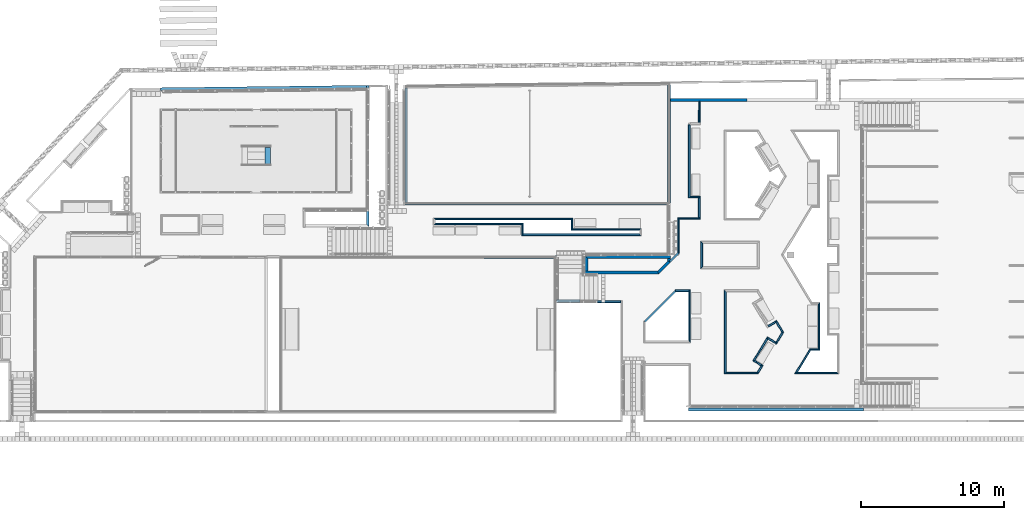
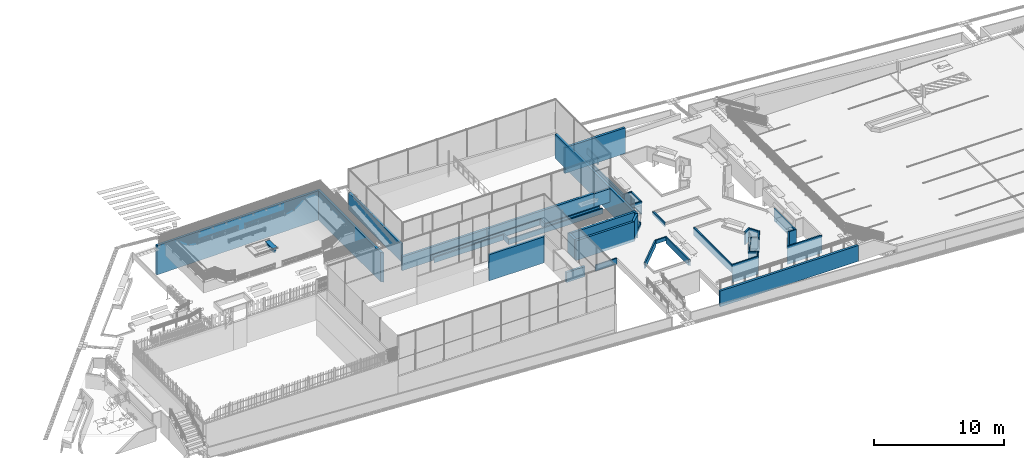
# One storey, part 18 of 237: 49 walls.
"""IFC2X3 building model written with IfcOpenShell, lengths in millimetres."""

from ifc_helpers import new_model, entity, si_unit, converted_unit, derived_unit, money_unit, direction, frame, origin_with_axes, place, context, subcontext, project, spatial, polyline, outline, extrude, material, layer, layer_set, layer_usage, type_object, element, save


model = new_model("IFC2X3")

# Units and contexts
model_context = context("Model", 3, precision=0.01, world=origin_with_axes(), true_north=direction((0.0, 1.0)))
body_context = subcontext(model_context, "Body", "Model", "MODEL_VIEW")
ifc_project = project(units=[si_unit("LENGTHUNIT", "METRE", prefix="MILLI"), si_unit("AREAUNIT", "SQUARE_METRE"), si_unit("VOLUMEUNIT", "CUBIC_METRE"), converted_unit("PLANEANGLEUNIT", "DEGREE", entity("IfcPlaneAngleMeasure", 0.0174532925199), si_unit("PLANEANGLEUNIT", "RADIAN"), dimensions=[0, 0, 0, 0, 0, 0, 0]), money_unit("USD"), converted_unit("TIMEUNIT", "Year", entity("IfcTimeMeasure", 31556926.0), si_unit("TIMEUNIT", "SECOND"), dimensions=[0, 0, 1, 0, 0, 0, 0]), si_unit("MASSUNIT", "GRAM", prefix="KILO"), si_unit("THERMODYNAMICTEMPERATUREUNIT", "DEGREE_CELSIUS"), si_unit("LUMINOUSINTENSITYUNIT", "LUMEN"), si_unit("ENERGYUNIT", "JOULE", prefix="MEGA"), derived_unit("THERMALCONDUCTANCEUNIT", [(si_unit("POWERUNIT", "WATT"), 1), (si_unit("LENGTHUNIT", "METRE"), -1), (si_unit("THERMODYNAMICTEMPERATUREUNIT", "KELVIN"), -1)]), derived_unit("SPECIFICHEATCAPACITYUNIT", [(si_unit("ENERGYUNIT", "JOULE"), 1), (si_unit("MASSUNIT", "GRAM", prefix="KILO"), -1), (si_unit("THERMODYNAMICTEMPERATUREUNIT", "KELVIN"), -1)]), derived_unit("MASSDENSITYUNIT", [(si_unit("MASSUNIT", "GRAM", prefix="KILO"), 1), (si_unit("VOLUMEUNIT", "CUBIC_METRE"), -1)])], contexts=[model_context])

# Site, building, storey
site_placement = place(None, origin_with_axes())
site = spatial("IfcSite", under=ifc_project, at=site_placement, Name="Local", CompositionType="ELEMENT")
building_placement = place(site_placement, origin_with_axes())
building = spatial("IfcBuilding", under=site, at=building_placement, Name="Construção", CompositionType="ELEMENT")
storey_placement = place(building_placement, origin_with_axes())
storey = spatial("IfcBuildingStorey", under=building, at=storey_placement, Name="Pavimento Térreo", CompositionType="ELEMENT", Elevation=0.0)

# Walls
ifc_material_1 = material(Name="Bloco de Concreto - Estrutural")
ifc_layer_1 = layer(ifc_material_1, 120.0, ventilated="UNKNOWN")
ifc_layer_set_1 = layer_set([ifc_layer_1], Name="Bloco de Concreto - Estrutural 120")
ifc_layer_usage_1 = layer_usage(ifc_layer_set_1, "AXIS2", "NEGATIVE", 0.0)
wall_type_1 = type_object("IfcWallType", Name="Bloco de Concreto - Estrutural 120", PredefinedType="NOTDEFINED")
wall_1_placement = place(storey_placement, frame((88136.5293784, 27817.2902729, -6038.27348767), z_axis=(0.0, 0.0, 1.0), x_axis=(1.0, 0.0, 0.0)))
element("IfcWallStandardCase", 1, at=wall_1_placement, inside=storey, type_object=wall_type_1, material=ifc_layer_usage_1, Name="Parede-085", context=body_context, shape_type="SweptSolid", body=[
    extrude(outline(polyline([(-0.00405153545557, -120.0), (700.267973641, -120.0), (700.267973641, 0.0), (-0.00405153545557, 0.0), (-0.00405153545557, -120.0)])), origin_with_axes(), (0.0, 0.0, 1.0), 1197.27348767),
])
ifc_layer_usage_2 = layer_usage(ifc_layer_set_1, "AXIS2", "NEGATIVE", 0.0)
wall_2_placement = place(storey_placement, frame((79917.0535554, 26172.3083774, -3852.41502407), z_axis=(0.0, 0.0, 1.0), x_axis=(-1.0, 0.0, 0.0)))
element("IfcWallStandardCase", 2, at=wall_2_placement, inside=storey, type_object=wall_type_1, material=ifc_layer_usage_2, Name="Parede-088", context=body_context, shape_type="SweptSolid", body=[
    extrude(outline(polyline([(0.0, -120.0), (9754.609759, -120.0), (9634.60975914, 0.0), (120.0, 0.0), (0.0, -120.0)])), origin_with_axes(), (0.0, 0.0, 1.0), 495.357755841),
])
ifc_layer_usage_3 = layer_usage(ifc_layer_set_1, "AXIS2", "NEGATIVE", 0.0)
wall_3_placement = place(storey_placement, frame((84717.0535529, 25057.2074195, -3852.41502407), z_axis=(0.0, 0.0, 1.0), x_axis=(-1.0, 5.19654094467e-09, 0.0)))
element("IfcWallStandardCase", 3, at=wall_3_placement, inside=storey, type_object=wall_type_1, material=ifc_layer_usage_3, Name="Parede-088", context=body_context, shape_type="SweptSolid", body=[
    extrude(outline(polyline([(120.00000001, -120.0), (8250.00000572, -120.0), (8370.00000591, 0.0), (0.0, 0.0), (120.00000001, -120.0)])), origin_with_axes(), (0.0, 0.0, 1.0), 495.357755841),
])
ifc_layer_usage_4 = layer_usage(ifc_layer_set_1, "AXIS2", "NEGATIVE", 0.0)
wall_4_placement = place(storey_placement, frame((87262.890169, 23868.0287044, -5181.0), z_axis=(0.0, 0.0, 1.0), x_axis=(7.26927904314e-06, 0.999999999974, 0.0)))
element("IfcWallStandardCase", 4, at=wall_4_placement, inside=storey, type_object=wall_type_1, material=ifc_layer_usage_4, Name="Parede-089", context=body_context, shape_type="SweptSolid", body=[
    extrude(outline(polyline([(-49.7051164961, -120.0), (2444.27594809, -120.0), (2444.27594809, 0.0), (0.0, 0.0), (-49.7051164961, -120.0)])), origin_with_axes(), (0.0, 0.0, 1.0), 340.0),
])
ifc_layer_usage_5 = layer_usage(ifc_layer_set_1, "AXIS2", "NEGATIVE", 0.0)
wall_5_placement = place(storey_placement, frame((79917.0535554, 26172.3083774, -3852.41502407), z_axis=(0.0, 0.0, 1.0), x_axis=(0.0, -1.0, 0.0)))
element("IfcWallStandardCase", 5, at=wall_5_placement, inside=storey, type_object=wall_type_1, material=ifc_layer_usage_5, Name="Parede-087", context=body_context, shape_type="SweptSolid", body=[
    extrude(outline(polyline([(0.0, -120.0), (750.0, -120.0), (630.0, 0.0), (-120.0, 0.0), (0.0, -120.0)])), origin_with_axes(), (0.0, 0.0, 1.0), 495.357755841),
])
ifc_layer_usage_6 = layer_usage(ifc_layer_set_1, "AXIS2", "NEGATIVE", 0.0)
wall_6_placement = place(storey_placement, frame((94178.8106637, 19128.4389739, -6187.39424695), z_axis=(0.0, 0.0, 1.0), x_axis=(0.518296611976, -0.855200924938, 0.0)))
element("IfcWallStandardCase", 6, at=wall_6_placement, inside=storey, type_object=wall_type_1, material=ifc_layer_usage_6, Name="Parede-081", context=body_context, shape_type="SweptSolid", body=[
    extrude(outline(polyline([(120.0, -120.0), (907.273706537, -120.0), (980.0, 0.0), (0.0, 0.0), (120.0, -120.0)])), origin_with_axes(), (0.0, 0.0, 1.0), 1345.0864139),
])
ifc_layer_usage_7 = layer_usage(ifc_layer_set_1, "AXIS2", "NEGATIVE", 0.0)
wall_7_placement = place(storey_placement, frame((87083.8709299, 21256.562138, -5180.04539951), z_axis=(0.0, 0.0, 1.0), x_axis=(1.0, 0.0, 0.0)))
element("IfcWallStandardCase", 7, at=wall_7_placement, inside=storey, type_object=wall_type_1, material=ifc_layer_usage_7, Name="Parede-081", context=body_context, shape_type="SweptSolid", body=[
    extrude(outline(polyline([(49.7056274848, -120.0), (936.173533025, -120.0), (1056.17353303, 0.0), (0.0, 0.0), (49.7056274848, -120.0)])), origin_with_axes(), (0.0, 0.0, 1.0), 340.0),
])
ifc_layer_usage_8 = layer_usage(ifc_layer_set_1, "AXIS2", "NEGATIVE", 0.0)
wall_8_placement = place(storey_placement, frame((88140.0444629, 21256.562138, -5402.07510216), z_axis=(0.0, 0.0, 1.0), x_axis=(0.0, -1.0, 0.0)))
element("IfcWallStandardCase", 8, at=wall_8_placement, inside=storey, type_object=wall_type_1, material=ifc_layer_usage_8, Name="Parede-084", context=body_context, shape_type="SweptSolid", body=[
    extrude(outline(polyline([(120.0, -120.0), (3564.74751986, -120.0), (3684.74751986, 0.0), (0.0, 0.0), (120.0, -120.0)])), origin_with_axes(), (0.0, 0.0, 1.0), 560.929574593),
])
ifc_layer_usage_9 = layer_usage(ifc_layer_set_1, "AXIS2", "NEGATIVE", 0.0)
wall_9_placement = place(storey_placement, frame((88840.4302332, 34453.1545409, -5410.24389814), z_axis=(0.0, 0.0, 1.0), x_axis=(-0.000580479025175, -0.999999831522, 0.0)))
element("IfcWallStandardCase", 9, at=wall_9_placement, inside=storey, type_object=wall_type_1, material=ifc_layer_usage_9, Name="Parede-082", context=body_context, shape_type="SweptSolid", body=[
    extrude(outline(polyline([(0.0, -120.0), (1505.36531755, -120.0), (1625.29568027, 0.0), (0.0, 0.0), (0.0, -120.0)])), origin_with_axes(), (0.0, 0.0, 1.0), 570.243898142),
])
ifc_layer_usage_10 = layer_usage(ifc_layer_set_1, "AXIS2", "NEGATIVE", 0.0)
wall_10_placement = place(storey_placement, frame((83386.4920647, 20372.3992382, -5225.91595125), z_axis=(0.0, 0.0, 1.0), x_axis=(-0.999999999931, 1.17050021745e-05, 0.0)))
element("IfcWallStandardCase", 10, at=wall_10_placement, inside=storey, type_object=wall_type_1, material=ifc_layer_usage_10, Name="Parede-082", context=body_context, shape_type="SweptSolid", body=[
    extrude(outline(polyline([(120.001319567, -120.0), (2032.53254401, -120.0), (2032.53254401, 0.0), (119.999914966, 0.0), (120.001319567, -120.0)])), origin_with_axes(), (0.0, 0.0, 1.0), 540.786490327),
])
ifc_layer_usage_11 = layer_usage(ifc_layer_set_1, "AXIS2", "NEGATIVE", 0.0)
wall_11_placement = place(storey_placement, frame((97095.4255213, 17142.4578651, -5971.10117502), z_axis=(0.0, 0.0, 1.0), x_axis=(0.0, 1.0, 0.0)))
element("IfcWallStandardCase", 11, at=wall_11_placement, inside=storey, type_object=wall_type_1, material=ifc_layer_usage_11, Name="Parede-087", context=body_context, shape_type="SweptSolid", body=[
    extrude(outline(polyline([(-120.0, -120.0), (3265.10961329, -120.0), (3145.10961329, 0.0), (0.0, 0.0), (-120.0, -120.0)])), origin_with_axes(), (0.0, 0.0, 1.0), 1130.98041574),
])
ifc_layer_usage_12 = layer_usage(ifc_layer_set_1, "AXIS2", "NEGATIVE", 0.0)
wall_12_placement = place(storey_placement, frame((84717.0535548, 25422.3083774, -3852.41502407), z_axis=(0.0, 0.0, 1.0), x_axis=(-1.0, 0.0, 0.0)))
element("IfcWallStandardCase", 12, at=wall_12_placement, inside=storey, type_object=wall_type_1, material=ifc_layer_usage_12, Name="Parede-088", context=body_context, shape_type="SweptSolid", body=[
    extrude(outline(polyline([(-6.13837869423e-07, -120.0), (4799.99999939, -120.0), (4919.99999939, 0.0), (120.0, 0.0), (-6.13837869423e-07, -120.0)])), origin_with_axes(), (0.0, 0.0, 1.0), 495.357755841),
])
ifc_layer_usage_13 = layer_usage(ifc_layer_set_1, "AXIS2", "NEGATIVE", 0.0)
wall_13_placement = place(storey_placement, frame((90536.7413377, 15377.5911634, -5606.99141897), z_axis=(0.0, 0.0, 1.0), x_axis=(3.81719284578e-06, 0.999999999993, 0.0)))
element("IfcWallStandardCase", 13, at=wall_13_placement, inside=storey, type_object=wall_type_1, material=ifc_layer_usage_13, Name="Parede-083", context=body_context, shape_type="SweptSolid", body=[
    extrude(outline(polyline([(120.000458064, -120.0), (5758.97033294, -120.0), (5878.96987488, 0.0), (0.0, 0.0), (120.000458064, -120.0)])), origin_with_axes(), (0.0, 0.0, 1.0), 764.683585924),
])
ifc_layer_usage_14 = layer_usage(ifc_layer_set_1, "AXIS2", "NEGATIVE", 0.0)
wall_14_placement = place(storey_placement, frame((92678.9196282, 16327.9696258, -6038.27348767), z_axis=(0.0, 0.0, 1.0), x_axis=(0.855200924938, -0.518296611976, 0.0)))
element("IfcWallStandardCase", 14, at=wall_14_placement, inside=storey, type_object=wall_type_1, material=ifc_layer_usage_14, Name="Parede-085", context=body_context, shape_type="SweptSolid", body=[
    extrude(outline(polyline([(-120.0, -120.0), (550.307255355, -120.0), (670.307255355, 0.0), (0.0, 0.0), (-120.0, -120.0)])), origin_with_axes(), (0.0, 0.0, 1.0), 1197.27348767),
])
ifc_layer_usage_15 = layer_usage(ifc_layer_set_1, "AXIS2", "NEGATIVE", 0.0)
wall_15_placement = place(storey_placement, frame((93639.9340544, 17913.6647803, -6187.39424695), z_axis=(0.0, 0.0, 1.0), x_axis=(-0.518296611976, -0.855200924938, 0.0)))
element("IfcWallStandardCase", 15, at=wall_15_placement, inside=storey, type_object=wall_type_1, material=ifc_layer_usage_15, Name="Parede-081", context=body_context, shape_type="SweptSolid", body=[
    extrude(outline(polyline([(0.0, -120.0), (1974.17848396, -120.0), (1854.17848396, 0.0), (120.0, 0.0), (0.0, -120.0)])), origin_with_axes(), (0.0, 0.0, 1.0), 1345.0864139),
])
ifc_layer_usage_16 = layer_usage(ifc_layer_set_1, "AXIS2", "NEGATIVE", 0.0)
wall_16_placement = place(storey_placement, frame((86672.4392945, 23277.5778299, -5181.0), z_axis=(0.0, 0.0, 1.0), x_axis=(0.707106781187, 0.707106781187, 0.0)))
element("IfcWallStandardCase", 16, at=wall_16_placement, inside=storey, type_object=wall_type_1, material=ifc_layer_usage_16, Name="Parede-088", context=body_context, shape_type="SweptSolid", body=[
    extrude(outline(polyline([(0.0, -120.0), (835.023634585, -120.0), (835.023634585, 0.0), (0.0, 0.0), (0.0, -120.0)])), origin_with_axes(), (0.0, 0.0, 1.0), 340.0),
])
ifc_layer_usage_17 = layer_usage(ifc_layer_set_1, "AXIS2", "NEGATIVE", 0.0)
wall_17_placement = place(storey_placement, frame((95441.4567298, 15377.5926903, -6517.39424695), z_axis=(0.0, 0.0, 1.0), x_axis=(0.518296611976, 0.855200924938, 0.0)))
element("IfcWallStandardCase", 17, at=wall_17_placement, inside=storey, type_object=wall_type_1, material=ifc_layer_usage_17, Name="Parede-085", context=body_context, shape_type="SweptSolid", body=[
    extrude(outline(polyline([(213.044195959, -120.0), (1996.09322029, -120.0), (2063.68482933, 0.0), (0.0, 0.0), (213.044195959, -120.0)])), origin_with_axes(), (0.0, 0.0, 1.0), 1677.27348767),
])
ifc_layer_usage_18 = layer_usage(ifc_layer_set_1, "AXIS2", "NEGATIVE", 0.0)
wall_18_placement = place(storey_placement, frame((92886.7413377, 15377.5911634, -6519.58132072), z_axis=(0.0, 0.0, 1.0), x_axis=(-1.0, 0.0, 0.0)))
element("IfcWallStandardCase", 18, at=wall_18_placement, inside=storey, type_object=wall_type_1, material=ifc_layer_usage_18, Name="Parede-081", context=body_context, shape_type="SweptSolid", body=[
    extrude(outline(polyline([(67.5916090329, -120.0), (2229.99954194, -120.0), (2350.00000001, 0.0), (0.0, 0.0), (67.5916090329, -120.0)])), origin_with_axes(), (0.0, 0.0, 1.0), 1677.27348767),
])
ifc_layer_usage_19 = layer_usage(ifc_layer_set_1, "AXIS2", "NEGATIVE", 0.0)
wall_19_placement = place(storey_placement, frame((94686.7413434, 18290.3420675, -6187.39424695), z_axis=(0.0, 0.0, 1.0), x_axis=(-0.518296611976, -0.855200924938, 0.0)))
element("IfcWallStandardCase", 19, at=wall_19_placement, inside=storey, type_object=wall_type_1, material=ifc_layer_usage_19, Name="Parede-081", context=body_context, shape_type="SweptSolid", body=[
    extrude(outline(polyline([(72.7262934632, -120.0), (864.691435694, -120.0), (984.691435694, 0.0), (0.0, 0.0), (72.7262934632, -120.0)])), origin_with_axes(), (0.0, 0.0, 1.0), 1345.0864139),
])
ifc_layer_usage_20 = layer_usage(ifc_layer_set_1, "AXIS2", "NEGATIVE", 0.0)
wall_20_placement = place(storey_placement, frame((93252.167013, 15980.5516464, -6187.39424695), z_axis=(0.0, 0.0, 1.0), x_axis=(-0.518296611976, -0.855200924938, 0.0)))
element("IfcWallStandardCase", 20, at=wall_20_placement, inside=storey, type_object=wall_type_1, material=ifc_layer_usage_20, Name="Parede-081", context=body_context, shape_type="SweptSolid", body=[
    extrude(outline(polyline([(120.0, -120.0), (637.459643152, -120.0), (705.051252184, 0.0), (0.0, 0.0), (120.0, -120.0)])), origin_with_axes(), (0.0, 0.0, 1.0), 1345.0864139),
])
ifc_layer_usage_21 = layer_usage(ifc_layer_set_1, "AXIS2", "NEGATIVE", 0.0)
wall_21_placement = place(storey_placement, frame((93580.1700162, 18765.6313456, -6039.58132072), z_axis=(0.0, 0.0, 1.0), x_axis=(0.855200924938, 0.518296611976, 0.0)))
element("IfcWallStandardCase", 21, at=wall_21_placement, inside=storey, type_object=wall_type_1, material=ifc_layer_usage_21, Name="Parede-085", context=body_context, shape_type="SweptSolid", body=[
    extrude(outline(polyline([(0.0, -120.0), (580.0, -120.0), (700.0, 0.0), (0.0, 0.0), (0.0, -120.0)])), origin_with_axes(), (0.0, 0.0, 1.0), 1197.27348767),
])
ifc_layer_usage_22 = layer_usage(ifc_layer_set_1, "AXIS2", "NEGATIVE", 0.0)
wall_22_placement = place(storey_placement, frame((88882.8912055, 22756.5427792, -5180.04539951), z_axis=(0.0, 0.0, 1.0), x_axis=(0.0, 1.0, 0.0)))
element("IfcWallStandardCase", 22, at=wall_22_placement, inside=storey, type_object=wall_type_1, material=ifc_layer_usage_22, Name="Parede-082", context=body_context, shape_type="SweptSolid", body=[
    extrude(outline(polyline([(120.0, -120.0), (1778.96787896, -120.0), (1898.96787896, 0.0), (0.0, 0.0), (120.0, -120.0)])), origin_with_axes(), (0.0, 0.0, 1.0), 340.0),
])
ifc_layer_usage_23 = layer_usage(ifc_layer_set_1, "AXIS2", "NEGATIVE", 0.0)
wall_23_placement = place(storey_placement, frame((93639.9340544, 17913.6647803, -6038.27348767), z_axis=(0.0, 0.0, 1.0), x_axis=(0.855200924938, -0.518296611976, 0.0)))
element("IfcWallStandardCase", 23, at=wall_23_placement, inside=storey, type_object=wall_type_1, material=ifc_layer_usage_23, Name="Parede-085", context=body_context, shape_type="SweptSolid", body=[
    extrude(outline(polyline([(0.0, -120.0), (700.0, -120.0), (580.0, 0.0), (-120.0, 0.0), (0.0, -120.0)])), origin_with_axes(), (0.0, 0.0, 1.0), 1197.27348767),
])
ifc_layer_usage_24 = layer_usage(ifc_layer_set_1, "AXIS2", "NEGATIVE", 0.0)
wall_24_placement = place(storey_placement, frame((96511.057585, 17142.4578651, -6517.39424695), z_axis=(0.0, 0.0, 1.0), x_axis=(1.0, 0.0, 0.0)))
element("IfcWallStandardCase", 24, at=wall_24_placement, inside=storey, type_object=wall_type_1, material=ifc_layer_usage_24, Name="Parede-086", context=body_context, shape_type="SweptSolid", body=[
    extrude(outline(polyline([(67.5916090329, -120.0), (704.367936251, -120.0), (584.367936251, 0.0), (0.0, 0.0), (67.5916090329, -120.0)])), origin_with_axes(), (0.0, 0.0, 1.0), 1677.27348767),
])
ifc_layer_usage_25 = layer_usage(ifc_layer_set_1, "AXIS2", "NEGATIVE", 0.0)
wall_25_placement = place(storey_placement, frame((98545.4255213, 15377.5926903, -6517.39424695), z_axis=(0.0, 0.0, 1.0), x_axis=(-1.0, 0.0, 0.0)))
element("IfcWallStandardCase", 25, at=wall_25_placement, inside=storey, type_object=wall_type_1, material=ifc_layer_usage_25, Name="Parede-084", context=body_context, shape_type="SweptSolid", body=[
    extrude(outline(polyline([(120.0, -120.0), (2890.92459552, -120.0), (3103.96879148, 0.0), (0.0, 0.0), (120.0, -120.0)])), origin_with_axes(), (0.0, 0.0, 1.0), 1677.27348767),
])
ifc_layer_usage_26 = layer_usage(ifc_layer_set_1, "AXIS2", "NEGATIVE", 0.0)
wall_26_placement = place(storey_placement, frame((85006.4496786, 19179.1408867, -5402.07510216), z_axis=(0.0, 0.0, 1.0), x_axis=(0.707106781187, 0.707106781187, 0.0)))
element("IfcWallStandardCase", 26, at=wall_26_placement, inside=storey, type_object=wall_type_1, material=ifc_layer_usage_26, Name="Parede-088", context=body_context, shape_type="SweptSolid", body=[
    extrude(outline(polyline([(-119.993809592, -120.0), (2888.21168087, -120.0), (2937.91730836, 0.0), (-169.701250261, 0.0), (-119.993809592, -120.0)])), origin_with_axes(), (0.0, 0.0, 1.0), 562.02970265),
])
ifc_layer_usage_27 = layer_usage(ifc_layer_set_1, "AXIS2", "NEGATIVE", 0.0)
wall_27_placement = place(storey_placement, frame((76467.0535529, 25927.2074538, -3852.41502407), z_axis=(0.0, 0.0, 1.0), x_axis=(-6.79672519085e-09, -1.0, 0.0)))
element("IfcWallStandardCase", 27, at=wall_27_placement, inside=storey, type_object=wall_type_1, material=ifc_layer_usage_27, Name="Parede-086", context=body_context, shape_type="SweptSolid", body=[
    extrude(outline(polyline([(120.0, -120.0), (869.999991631, -120.0), (749.999991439, 0.0), (0.0, 0.0), (120.0, -120.0)])), origin_with_axes(), (0.0, 0.0, 1.0), 495.357755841),
])
ifc_layer_usage_28 = layer_usage(ifc_layer_set_1, "AXIS2", "NEGATIVE", 0.0)
wall_28_placement = place(storey_placement, frame((70282.443796, 25927.2074958, -3852.41502407), z_axis=(0.0, 0.0, 1.0), x_axis=(1.0, -6.7967327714e-09, 0.0)))
element("IfcWallStandardCase", 28, at=wall_28_placement, inside=storey, type_object=wall_type_1, material=ifc_layer_usage_28, Name="Parede-088", context=body_context, shape_type="SweptSolid", body=[
    extrude(outline(polyline([(-119.999999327, -120.0), (6064.60975695, -120.0), (6184.60975695, 0.0), (0.0, 0.0), (-119.999999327, -120.0)])), origin_with_axes(), (0.0, 0.0, 1.0), 495.357755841),
])
ifc_layer_usage_29 = layer_usage(ifc_layer_set_1, "AXIS2", "NEGATIVE", 0.0)
wall_29_placement = place(storey_placement, frame((88836.797352, 27817.2902729, -6038.27348767), z_axis=(0.0, 0.0, 1.0), x_axis=(-0.000167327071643, -0.999999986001, 0.0)))
element("IfcWallStandardCase", 29, at=wall_29_placement, inside=storey, type_object=wall_type_1, material=ifc_layer_usage_29, Name="Parede-086", context=body_context, shape_type="SweptSolid", body=[
    extrude(outline(polyline([(0.0, -120.0), (1625.00071697, -120.0), (1625.00071697, 0.0), (0.0, 0.0), (0.0, -120.0)])), origin_with_axes(), (0.0, 0.0, 1.0), 1197.27348767),
])
ifc_layer_usage_30 = layer_usage(ifc_layer_set_1, "AXIS2", "NEGATIVE", 0.0)
wall_30_placement = place(storey_placement, frame((88836.5254454, 26192.2895787, -5181.0), z_axis=(0.0, 0.0, 1.0), x_axis=(-0.999999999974, 7.26927903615e-06, 0.0)))
element("IfcWallStandardCase", 30, at=wall_30_placement, inside=storey, type_object=wall_type_1, material=ifc_layer_usage_30, Name="Parede-087", context=body_context, shape_type="SweptSolid", body=[
    extrude(outline(polyline([(0.0, -120.0), (1453.61838066, -120.0), (1453.61838066, 0.0), (0.0, 0.0), (0.0, -120.0)])), origin_with_axes(), (0.0, 0.0, 1.0), 340.0),
])
ifc_layer_usage_31 = layer_usage(ifc_layer_set_1, "AXIS2", "NEGATIVE", 0.0)
wall_31_placement = place(storey_placement, frame((88136.5253268, 32827.8591344, -5181.0), z_axis=(0.0, 0.0, 1.0), x_axis=(0.0, -1.0, 0.0)))
element("IfcWallStandardCase", 31, at=wall_31_placement, inside=storey, type_object=wall_type_1, material=ifc_layer_usage_31, Name="Parede-084", context=body_context, shape_type="SweptSolid", body=[
    extrude(outline(polyline([(0.0, -120.0), (5130.56886155, -120.0), (5130.56886155, 0.0), (0.0, 0.0), (0.0, -120.0)])), origin_with_axes(), (0.0, 0.0, 1.0), 340.0),
])
ifc_layer_usage_32 = layer_usage(ifc_layer_set_1, "AXIS2", "NEGATIVE", 0.0)
wall_32_placement = place(storey_placement, frame((88839.183519, 34454.4012551, -5410.24389814), z_axis=(0.0, 0.0, 1.0), x_axis=(-0.000580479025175, -0.999999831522, 0.0)))
element("IfcWallStandardCase", 32, at=wall_32_placement, inside=storey, type_object=wall_type_1, material=ifc_layer_usage_32, Name="Parede-082", context=body_context, shape_type="SweptSolid", body=[
    extrude(outline(polyline([(0.0, -120.0), (1625.29568027, -120.0), (1625.29568027, 0.0), (0.0, 0.0), (0.0, -120.0)])), origin_with_axes(), (0.0, 0.0, 1.0), 570.243898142),
])
ifc_layer_2 = layer(ifc_material_1, 200.0, ventilated="UNKNOWN")
ifc_layer_set_2 = layer_set([ifc_layer_2], Name="Bloco de Concreto - Estrutural 200")
ifc_layer_usage_33 = layer_usage(ifc_layer_set_2, "AXIS2", "NEGATIVE", 0.0)
wall_type_2 = type_object("IfcWallType", Name="Bloco de Concreto - Estrutural 200", PredefinedType="NOTDEFINED")
wall_33_placement = place(storey_placement, frame((80768.925005, 22572.6048676, -5251.15866721), z_axis=(0.0, 0.0, 1.0), x_axis=(8.47226461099e-05, 0.999999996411, 0.0)))
element("IfcWallStandardCase", 33, at=wall_33_placement, inside=storey, type_object=wall_type_2, material=ifc_layer_usage_33, Name="Parede-088", context=body_context, shape_type="SweptSolid", body=[
    extrude(outline(polyline([(0.0, -200.0), (887.279695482, -200.0), (1087.35751207, 0.0), (0.0, 0.0), (0.0, -200.0)])), origin_with_axes(), (0.0, 0.0, 1.0), 1838.50737407),
])
ifc_layer_usage_34 = layer_usage(ifc_layer_set_2, "AXIS2", "NEGATIVE", 0.0)
wall_34_placement = place(storey_placement, frame((86762.8908804, 35592.8047854, -5732.13025842), z_axis=(0.0, 0.0, 1.0), x_axis=(0.0, -1.0, 0.0)))
element("IfcWallStandardCase", 34, at=wall_34_placement, inside=storey, type_object=wall_type_2, material=ifc_layer_usage_34, Name="Parede-088", context=body_context, shape_type="SweptSolid", body=[
    extrude(outline(polyline([(0.0, -200.0), (12311.6382846, -200.0), (12394.4809971, 0.0), (0.0, 0.0), (0.0, -200.0)])), origin_with_axes(), (0.0, 0.0, 1.0), 2319.47896528),
])
ifc_layer_usage_35 = layer_usage(ifc_layer_set_2, "AXIS2", "NEGATIVE", 0.0)
wall_35_placement = place(storey_placement, frame((92116.2709545, 34451.2529837, -6514.65722324), z_axis=(0.0, 0.0, 1.0), x_axis=(-0.99999999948, -3.22591899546e-05, 0.0)))
element("IfcWallStandardCase", 35, at=wall_35_placement, inside=storey, type_object=wall_type_2, material=ifc_layer_usage_35, Name="Parede-081", context=body_context, shape_type="SweptSolid", body=[
    extrude(outline(polyline([(0.0, -200.0), (5353.34324574, -200.0), (5353.34324574, 0.0), (0.0, 0.0), (0.0, -200.0)])), origin_with_axes(), (0.0, 0.0, 1.0), 2407.3607603),
])
ifc_layer_usage_36 = layer_usage(ifc_layer_set_2, "AXIS2", "NEGATIVE", 0.0)
wall_36_placement = place(storey_placement, frame((78568.9838287, 23457.4779863, -5345.5646423), z_axis=(0.0, 0.0, 1.0), x_axis=(-0.999999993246, -0.000116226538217, 0.0)))
element("IfcWallStandardCase", 36, at=wall_36_placement, inside=storey, type_object=wall_type_2, material=ifc_layer_usage_36, Name="Parede-086", context=body_context, shape_type="SweptSolid", body=[
    extrude(outline(polyline([(-200.025567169, -200.0), (4855.09433096, -200.0), (4855.09433096, 0.0), (0.0, 0.0), (-200.025567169, -200.0)])), origin_with_axes(), (0.0, 0.0, 1.0), 2450.0),
])
ifc_layer_usage_37 = layer_usage(ifc_layer_set_2, "AXIS2", "NEGATIVE", 0.0)
wall_37_placement = place(storey_placement, frame((65467.7444612, 25858.7535283, -3986.62815507), z_axis=(0.0, 0.0, 1.0), x_axis=(-0.000544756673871, 0.99999985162, 0.0)))
element("IfcWallStandardCase", 37, at=wall_37_placement, inside=storey, type_object=wall_type_2, material=ifc_layer_usage_37, Name="Parede-090", context=body_context, shape_type="SweptSolid", body=[
    extrude(outline(polyline([(-200.007796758, -200.0), (9720.47407308, -200.0), (9720.47407308, 0.0), (0.0, 0.0), (-200.007796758, -200.0)])), origin_with_axes(), (0.0, 0.0, 1.0), 2751.74639713),
])
ifc_layer_usage_38 = layer_usage(ifc_layer_set_2, "AXIS2", "NEGATIVE", 0.0)
wall_38_placement = place(storey_placement, frame((85853.788948, 22572.0645683, -5251.15866721), z_axis=(0.0, 0.0, 1.0), x_axis=(0.707106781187, 0.707106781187, 0.0)))
element("IfcWallStandardCase", 38, at=wall_38_placement, inside=storey, type_object=wall_type_2, material=ifc_layer_usage_38, Name="Parede-088", context=body_context, shape_type="SweptSolid", body=[
    extrude(outline(polyline([(-82.8526385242, -200.0), (1085.6642824, -200.0), (1002.82156993, 0.0), (0.0, 0.0), (-82.8526385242, -200.0)])), origin_with_axes(), (0.0, 0.0, 1.0), 1838.50737407),
])
ifc_layer_usage_39 = layer_usage(ifc_layer_set_2, "AXIS2", "NEGATIVE", 0.0)
wall_39_placement = place(storey_placement, frame((86763.2823677, 23457.1226906, -5251.15866721), z_axis=(0.0, 0.0, 1.0), x_axis=(-0.99999988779, 0.00047372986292, 0.0)))
element("IfcWallStandardCase", 39, at=wall_39_placement, inside=storey, type_object=wall_type_2, material=ifc_layer_usage_39, Name="Parede-088", context=body_context, shape_type="SweptSolid", body=[
    extrude(outline(polyline([(0.0, -200.0), (5994.36065748, -200.0), (5794.2828409, 0.0), (0.0, 0.0), (0.0, -200.0)])), origin_with_axes(), (0.0, 0.0, 1.0), 1838.50737407),
])
ifc_layer_usage_40 = layer_usage(ifc_layer_set_2, "AXIS2", "NEGATIVE", 0.0)
wall_40_placement = place(storey_placement, frame((75692.4285843, 27192.3083221, -4711.64791669), z_axis=(0.0, 0.0, 1.0), x_axis=(-1.0, 2.42044135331e-08, 0.0)))
element("IfcWallStandardCase", 40, at=wall_40_placement, inside=storey, type_object=wall_type_2, material=ifc_layer_usage_40, Name="Parede-089", context=body_context, shape_type="SweptSolid", body=[
    extrude(outline(polyline([(1.50204471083e-06, -200.0), (7531.86166142, -200.0), (7531.86166142, 0.0), (0.0, 0.0), (1.50204471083e-06, -200.0)])), origin_with_axes(), (0.0, 0.0, 1.0), 1298.99662354),
])
ifc_layer_usage_41 = layer_usage(ifc_layer_set_2, "AXIS2", "NEGATIVE", 0.0)
wall_41_placement = place(storey_placement, frame((65662.4443433, 35380.9871477, -3986.62815507), z_axis=(0.0, 0.0, 1.0), x_axis=(-0.999930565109, -0.011784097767, 0.0)))
element("IfcWallStandardCase", 41, at=wall_41_placement, inside=storey, type_object=wall_type_2, material=ifc_layer_usage_41, Name="Parede-090", context=body_context, shape_type="SweptSolid", body=[
    extrude(outline(polyline([(0.0, -200.0), (14598.2596466, -200.0), (14598.2596466, 0.0), (0.0, 0.0), (0.0, -200.0)])), origin_with_axes(), (0.0, 0.0, 1.0), 2751.74639713),
])
ifc_layer_usage_42 = layer_usage(ifc_layer_set_2, "AXIS2", "NEGATIVE", 0.0)
wall_42_placement = place(storey_placement, frame((85162.890878, 27192.3082351, -4711.64791669), z_axis=(0.0, 0.0, 1.0), x_axis=(-1.0, 9.18428291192e-09, 0.0)))
element("IfcWallStandardCase", 42, at=wall_42_placement, inside=storey, type_object=wall_type_2, material=ifc_layer_usage_42, Name="Parede-088", context=body_context, shape_type="SweptSolid", body=[
    extrude(outline(polyline([(-2.87613488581e-07, -200.0), (9470.46229217, -200.0), (9470.46229368, 0.0), (0.0, 0.0), (-2.87613488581e-07, -200.0)])), origin_with_axes(), (0.0, 0.0, 1.0), 1298.99662354),
])
ifc_layer_usage_43 = layer_usage(ifc_layer_set_2, "AXIS2", "NEGATIVE", 0.0)
wall_43_placement = place(storey_placement, frame((68362.4542795, 35392.3169206, -3986.62815507), z_axis=(0.0, 0.0, 1.0), x_axis=(2.25380061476e-05, -0.999999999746, 0.0)))
element("IfcWallStandardCase", 43, at=wall_43_placement, inside=storey, type_object=wall_type_2, material=ifc_layer_usage_43, Name="Parede-088", context=body_context, shape_type="SweptSolid", body=[
    extrude(outline(polyline([(0.0, -200.0), (8000.00391067, -200.0), (8000.00842311, 0.0), (0.0, 0.0), (0.0, -200.0)])), origin_with_axes(), (0.0, 0.0, 1.0), 1657.90306907),
])
ifc_layer_usage_44 = layer_usage(ifc_layer_set_2, "AXIS2", "NEGATIVE", 0.0)
wall_44_placement = place(storey_placement, frame((80768.925005, 22572.4953715, -5251.15866721), z_axis=(0.0, 0.0, 1.0), x_axis=(0.999999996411, -8.47226461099e-05, 0.0)))
element("IfcWallStandardCase", 44, at=wall_44_placement, inside=storey, type_object=wall_type_2, material=ifc_layer_usage_44, Name="Parede-088", context=body_context, shape_type="SweptSolid", body=[
    extrude(outline(polyline([(0.0, -200.0), (5167.71659977, -200.0), (5084.86396124, 0.0), (0.0, 0.0), (0.0, -200.0)])), origin_with_axes(), (0.0, 0.0, 1.0), 1838.50737407),
])
ifc_layer_usage_45 = layer_usage(ifc_layer_set_2, "AXIS2", "NEGATIVE", 0.0)
wall_45_placement = place(storey_placement, frame((78772.9306387, 20572.3994163, -5401.15866721), z_axis=(0.0, 0.0, 1.0), x_axis=(1.0, -1.55475492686e-08, 0.0)))
element("IfcWallStandardCase", 45, at=wall_45_placement, inside=storey, type_object=wall_type_2, material=ifc_layer_usage_45, Name="Parede-088", context=body_context, shape_type="SweptSolid", body=[
    extrude(outline(polyline([(0.0, -200.0), (1655.1162542, -200.0), (1655.1162542, 0.0), (0.0, 0.0), (0.0, -200.0)])), origin_with_axes(), (0.0, 0.0, 1.0), 935.768065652),
])
ifc_layer_usage_46 = layer_usage(ifc_layer_set_2, "AXIS2", "NEGATIVE", 0.0)
wall_46_placement = place(storey_placement, frame((92116.2709545, 34451.2529837, -6514.65722324), z_axis=(0.0, 0.0, 1.0), x_axis=(-0.99999999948, -3.22591899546e-05, 0.0)))
element("IfcWallStandardCase", 46, at=wall_46_placement, inside=storey, type_object=wall_type_2, material=ifc_layer_usage_46, Name="Parede-081", context=body_context, shape_type="SweptSolid", body=[
    extrude(outline(polyline([(0.0459791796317, -200.0), (5353.34324574, -200.0), (5353.34324574, 0.0), (0.0, 0.0), (0.0459791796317, -200.0)])), origin_with_axes(), (0.0, 0.0, 1.0), 2407.3607603),
])
ifc_layer_usage_47 = layer_usage(ifc_layer_set_2, "AXIS2", "NEGATIVE", 0.0)
wall_47_placement = place(storey_placement, frame((86562.890878, 27192.3082183, -4711.64791669), z_axis=(0.0, 0.0, 1.0), x_axis=(-1.0, 1.20603768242e-08, 0.0)))
element("IfcWallStandardCase", 47, at=wall_47_placement, inside=storey, type_object=wall_type_2, material=ifc_layer_usage_47, Name="Parede-089", context=body_context, shape_type="SweptSolid", body=[
    extrude(outline(polyline([(0.0, -200.0), (1400.00000029, -200.0), (1400.0, 0.0), (0.0, 0.0), (0.0, -200.0)])), origin_with_axes(), (0.0, 0.0, 1.0), 1242.79975957),
])
ifc_layer_usage_48 = layer_usage(ifc_layer_set_2, "AXIS2", "NEGATIVE", 0.0)
wall_48_placement = place(storey_placement, frame((100264.129152, 12795.5139554, -6323.08758344), z_axis=(0.0, 0.0, 1.0), x_axis=(-0.999999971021, -0.000240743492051, 0.0)))
element("IfcWallStandardCase", 48, at=wall_48_placement, inside=storey, type_object=wall_type_2, material=ifc_layer_usage_48, Name="Parede-081", context=body_context, shape_type="SweptSolid", body=[
    extrude(outline(polyline([(0.0, -200.0), (12243.886779, -200.0), (12243.886779, 0.0), (0.0, 0.0), (0.0, -200.0)])), origin_with_axes(), (0.0, 0.0, 1.0), 1481.94205587),
])
ifc_material_2 = material(Name="Concreto Armado - Estrutural")
wall_type_3 = type_object("IfcWallType", Name="Floreira skate 400 x 450", PredefinedType="NOTDEFINED")
wall_49_placement = place(storey_placement, frame((58662.4440926, 30078.1381603, -1410.0), z_axis=(0.0, 0.0, 1.0), x_axis=(0.0, 1.0, 0.0)))
element("IfcWall", 49, at=wall_49_placement, inside=storey, type_object=wall_type_3, material=ifc_material_2, Name="Parede-093", context=body_context, shape_type="SweptSolid", body=[
    extrude(outline(polyline([(0.0, 350.0), (0.0, 0.0), (200.0, 0.0), (200.0, 350.0), (300.0, 350.0), (300.0, 450.0), (-100.0, 450.0), (-100.0, 350.0), (0.0, 350.0)])), frame((0.0, 0.0, 0.0), z_axis=(1.0, 0.0, 0.0), x_axis=(0.0, 1.0, 0.0)), (0.0, 0.0, 1.0), 1150.35534917),
])

save(model, "model.ifc")
